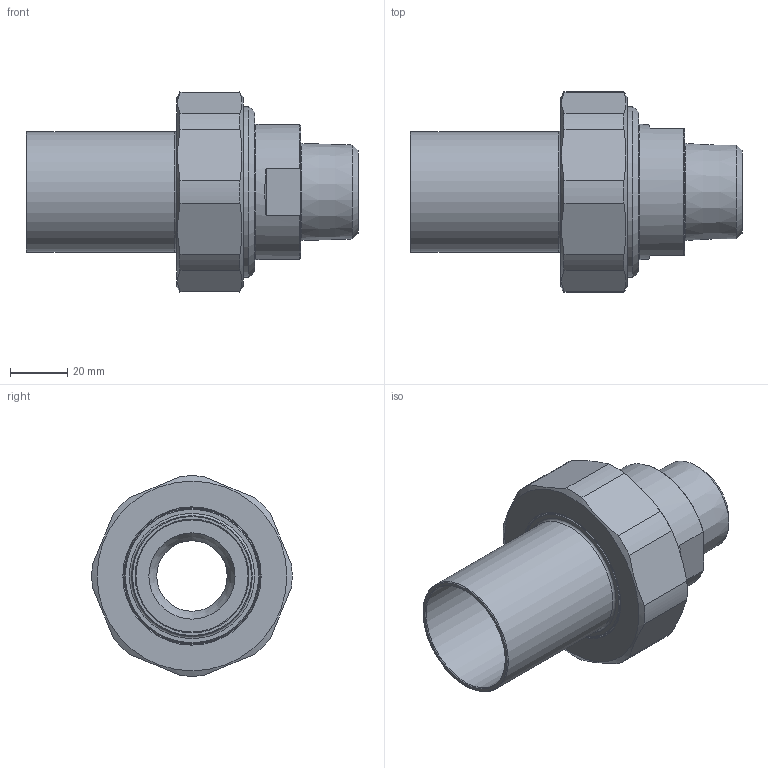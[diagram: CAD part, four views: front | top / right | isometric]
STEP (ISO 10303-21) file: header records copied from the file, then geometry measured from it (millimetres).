
FILE_DESCRIPTION(/* description */ (''),/* implementation_level */ '2;1');
FILE_NAME(/* name */ 'C:\Users\cad\Desktop\Zeichnungen neu von Ralph\Ganze Kupplungen\3D_Kupplung-R666-PE-UG\3D_R666-PE-UG-42-DN50-DN25_1711309705.stp',/* time_stamp */ '2021-07-16T13:07:21+02:00',/* author */ ('cad'),/* organization */ (''),/* preprocessor_version */ 'ST-DEVELOPER v18.1',/* originating_system */ 'Autodesk Inventor 2022',/* authorisation */ '');
FILE_SCHEMA (('AUTOMOTIVE_DESIGN { 1 0 10303 214 3 1 1 }'));
Length unit declared in the file: millimetre
Products named in the file (4): 3D_R666-PE-UG-42-DN50-DN25_1711309705; 3D_R666-M-DN50_17113960; 3D_R666-UG-DN25-DN50_17113655; 3D_R666-PE-42-DN50_17113483
Assembly tree (3 placements, depth 2):
  3D_R666-PE-UG-42-DN50-DN25_1711309705
    3D_R666-M-DN50_17113960
    3D_R666-UG-DN25-DN50_17113655
    3D_R666-PE-42-DN50_17113483
Bounding box: 115.5 x 69.68 x 69.65 mm (x, y, z)
Volume: 109458.2 mm3; surface area: 45718.1 mm2
Topology: 3 solids, 3 shells, 67 faces, 166 edges, 110 vertices
Faces by surface type: plane 23, cone 20, cylinder 18, torus 6
Full cylindrical faces by diameter (mm): 24.5 x1, 39 x1, 42 x1, 47 x2, 47.5 x1, 54.5 x1, 56.656 x1, 59.5 x1, 60 x1
Entity records: 2173 total; most frequent: CARTESIAN_POINT 390, DIRECTION 388, ORIENTED_EDGE 332, AXIS2_PLACEMENT_3D 168, EDGE_CURVE 166, VERTEX_POINT 110, CIRCLE 92, EDGE_LOOP 78
